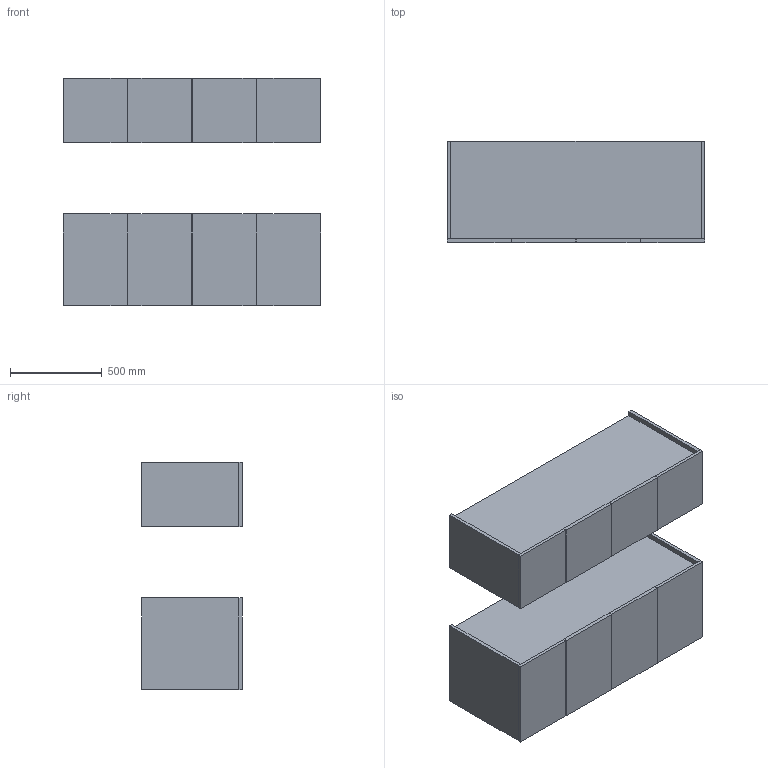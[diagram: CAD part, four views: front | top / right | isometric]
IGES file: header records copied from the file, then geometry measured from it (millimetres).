
Global section: file name: \\Archi-NAS\Comune\X GIOVANNI\MOBILI\EDITION\EDITION_04.igs; native system: Rhinoceros ( Feb 23 2021 ); preprocessor: Trout Lake IGES 012 Feb 23 2021; date: 230607.151800; units: millimetre
Bounding box: 1400 x 549 x 1237.33 mm (x, y, z)
Surface area: 13774724 mm2 (no closed solid volume)
Topology: 0 solids, 0 shells, 144 faces, 584 edges, 584 vertices
Faces by surface type: bspline 144
